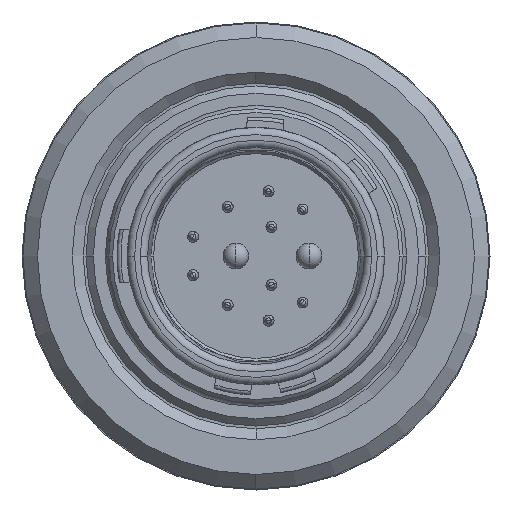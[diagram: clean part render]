
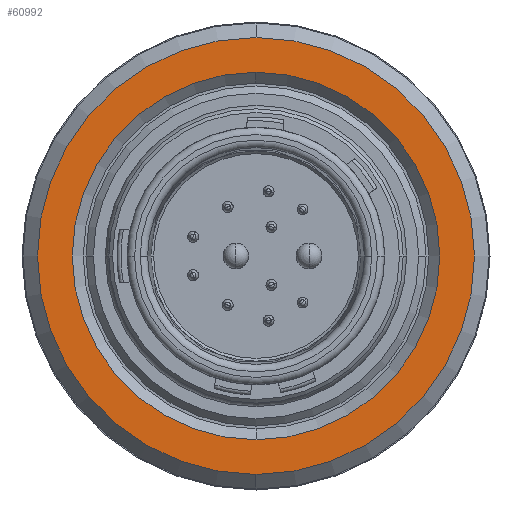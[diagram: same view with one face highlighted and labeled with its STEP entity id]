
A CAD part, left-side view. The second image highlights one B-rep face of the part: STEP entity #60992.
In plain terms, the highlighted planar face has unit normal (-1, 0, 0).
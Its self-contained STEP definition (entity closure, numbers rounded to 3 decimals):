
#19783=CARTESIAN_POINT('',(-7.5,0.,0.));
#19784=DIRECTION('',(1.,0.,0.));
#19785=DIRECTION('',(0.,0.,-1.));
#19786=AXIS2_PLACEMENT_3D('',#19783,#19784,#19785);
#19788=CARTESIAN_POINT('',(-7.5,0.,0.));
#19789=DIRECTION('',(1.,0.,0.));
#19790=DIRECTION('',(0.,1.,0.));
#19791=AXIS2_PLACEMENT_3D('',#19788,#19789,#19790);
#19793=CARTESIAN_POINT('',(-7.5,0.,0.));
#19794=DIRECTION('',(1.,0.,0.));
#19795=DIRECTION('',(0.,0.,1.));
#19796=AXIS2_PLACEMENT_3D('',#19793,#19794,#19795);
#19798=CARTESIAN_POINT('',(-7.5,0.,0.));
#19799=DIRECTION('',(1.,0.,0.));
#19800=DIRECTION('',(0.,-1.,0.));
#19801=AXIS2_PLACEMENT_3D('',#19798,#19799,#19800);
#19803=CARTESIAN_POINT('',(-7.5,0.,0.));
#19804=DIRECTION('',(-1.,0.,0.));
#19805=DIRECTION('',(0.,0.,-1.));
#19806=AXIS2_PLACEMENT_3D('',#19803,#19804,#19805);
#19808=CARTESIAN_POINT('',(-7.5,0.,0.));
#19809=DIRECTION('',(-1.,0.,0.));
#19810=DIRECTION('',(0.,-1.,0.));
#19811=AXIS2_PLACEMENT_3D('',#19808,#19809,#19810);
#19813=CARTESIAN_POINT('',(-7.5,0.,0.));
#19814=DIRECTION('',(-1.,0.,0.));
#19815=DIRECTION('',(0.,0.,1.));
#19816=AXIS2_PLACEMENT_3D('',#19813,#19814,#19815);
#19818=CARTESIAN_POINT('',(-7.5,0.,0.));
#19819=DIRECTION('',(-1.,0.,0.));
#19820=DIRECTION('',(0.,1.,0.));
#19821=AXIS2_PLACEMENT_3D('',#19818,#19819,#19820);
#24423=CARTESIAN_POINT('',(-7.5,0.,-5.975));
#24424=VERTEX_POINT('',#24423);
#24425=CARTESIAN_POINT('',(-7.5,0.,5.975));
#24426=CARTESIAN_POINT('',(-7.5,-5.975,0.));
#24427=VERTEX_POINT('',#24425);
#24428=VERTEX_POINT('',#24426);
#24429=CARTESIAN_POINT('',(-7.5,5.975,0.));
#24430=VERTEX_POINT('',#24429);
#24431=CARTESIAN_POINT('',(-7.5,-5.025,0.));
#24432=CARTESIAN_POINT('',(-7.5,0.,5.025));
#24433=VERTEX_POINT('',#24431);
#24434=VERTEX_POINT('',#24432);
#24435=CARTESIAN_POINT('',(-7.5,0.,-5.025));
#24436=VERTEX_POINT('',#24435);
#24437=CARTESIAN_POINT('',(-7.5,5.025,0.));
#24438=VERTEX_POINT('',#24437);
#60971=CARTESIAN_POINT('',(-7.5,0.,0.));
#60972=DIRECTION('',(-1.,0.,0.));
#60973=DIRECTION('',(0.,0.,1.));
#60974=AXIS2_PLACEMENT_3D('',#60971,#60972,#60973);
#60975=PLANE('',#60974);
#60976=ORIENTED_EDGE('',*,*,#60958,.T.);
#60977=ORIENTED_EDGE('',*,*,#60956,.T.);
#60978=ORIENTED_EDGE('',*,*,#60934,.T.);
#60979=ORIENTED_EDGE('',*,*,#60932,.T.);
#60980=EDGE_LOOP('',(#60976,#60977,#60978,#60979));
#60981=FACE_OUTER_BOUND('',#60980,.F.);
#60983=ORIENTED_EDGE('',*,*,#60982,.T.);
#60985=ORIENTED_EDGE('',*,*,#60984,.T.);
#60987=ORIENTED_EDGE('',*,*,#60986,.T.);
#60989=ORIENTED_EDGE('',*,*,#60988,.T.);
#60990=EDGE_LOOP('',(#60983,#60985,#60987,#60989));
#60991=FACE_BOUND('',#60990,.F.);
#19787=CIRCLE('',#19786,5.975);
#19792=CIRCLE('',#19791,5.975);
#19797=CIRCLE('',#19796,5.975);
#19802=CIRCLE('',#19801,5.975);
#19807=CIRCLE('',#19806,5.025);
#19812=CIRCLE('',#19811,5.025);
#19817=CIRCLE('',#19816,5.025);
#19822=CIRCLE('',#19821,5.025);
#60932=EDGE_CURVE('',#24428,#24424,#19802,.T.);
#60934=EDGE_CURVE('',#24427,#24428,#19797,.T.);
#60956=EDGE_CURVE('',#24430,#24427,#19792,.T.);
#60958=EDGE_CURVE('',#24424,#24430,#19787,.T.);
#60982=EDGE_CURVE('',#24436,#24433,#19807,.T.);
#60984=EDGE_CURVE('',#24433,#24434,#19812,.T.);
#60986=EDGE_CURVE('',#24434,#24438,#19817,.T.);
#60988=EDGE_CURVE('',#24438,#24436,#19822,.T.);
#60992=ADVANCED_FACE('',(#60981,#60991),#60975,.T.);
